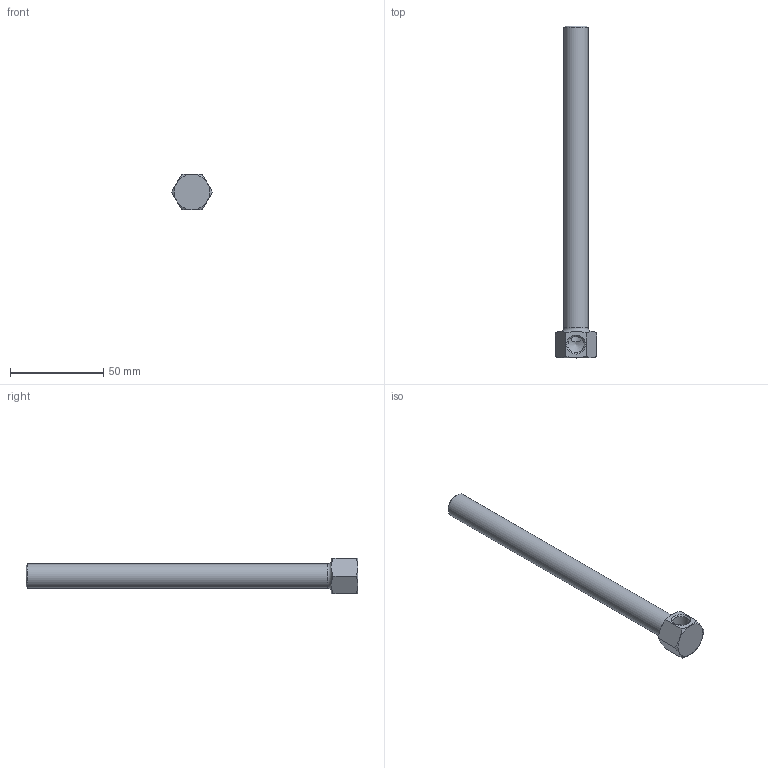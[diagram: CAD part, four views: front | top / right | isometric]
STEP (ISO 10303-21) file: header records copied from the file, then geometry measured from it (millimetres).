
FILE_DESCRIPTION(/* description */ (''),/* implementation_level */ '2;1');
FILE_NAME(/* name */ 'C:/Users/drich/Desktop/1814B-7 v1.step',/* time_stamp */ '2019-12-29T15:30:30-06:00',/* author */ (''),/* organization */ (''),/* preprocessor_version */ 'ST-DEVELOPER v18',/* originating_system */ 'Autodesk Translation Framework v8.12.0.6',/* authorisation */ '');
FILE_SCHEMA (('AUTOMOTIVE_DESIGN { 1 0 10303 214 3 1 1 }'));
Length unit declared in the file: inch
Products named in the file (1): 1814B-7
Bounding box: 22 x 177.8 x 19.05 mm (x, y, z)
Volume: 15540.2 mm3; surface area: 12983.4 mm2
Topology: 1 solids, 1 shells, 22 faces, 57 edges, 37 vertices
Faces by surface type: plane 9, cone 8, cylinder 4, torus 1
Full cylindrical faces by diameter (mm): 8.707 x1, 8.712 x1, 13.032 x1
Entity records: 801 total; most frequent: CARTESIAN_POINT 256, ORIENTED_EDGE 112, DIRECTION 100, EDGE_CURVE 56, AXIS2_PLACEMENT_3D 42, VERTEX_POINT 37, EDGE_LOOP 25, FACE_OUTER_BOUND 22
